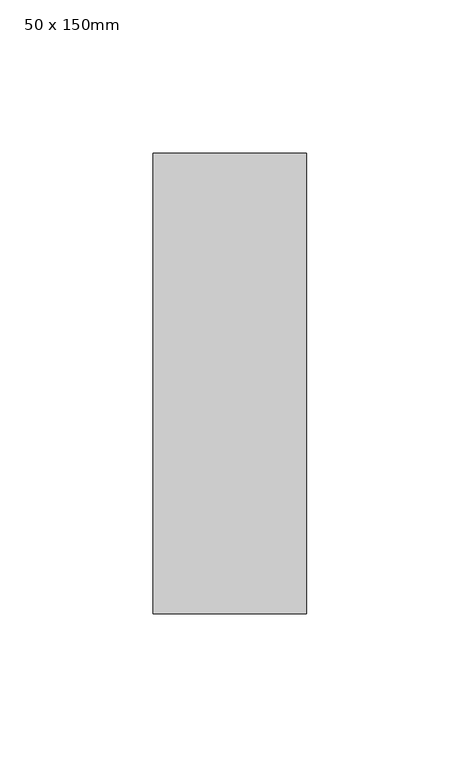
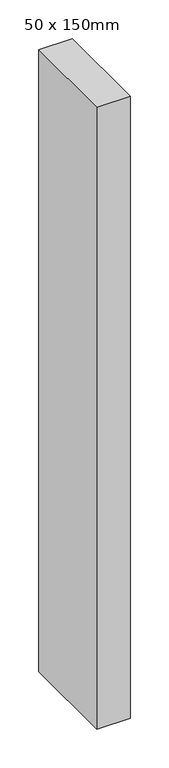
"""IFC4 building model written with IfcOpenShell, lengths in millimetres: member geometry, 矩形豎框 : 50 x 150mm."""

from ifc_helpers import new_model, si_unit, frame, origin, place, context, project, spatial, polyline, outline, extrude, source, transform, mapped, element, save


def member_50_x_150mm_038a97c0(model_context):
    return source(origin(), model_context, "Body", "SweptSolid", [
        extrude(outline(polyline([(0.0, 75.0), (0.0, -75.0), (-50.0, -75.0), (-50.0, 75.0), (0.0, 75.0)])), frame((0.0, 0.0, -981.6666667), z_axis=(0.0, 0.0, 1.0), x_axis=(1.0, 0.0, 0.0)), (0.0, 0.0, 1.0), 981.6666667),
    ])


if __name__ == "__main__":
    model = new_model("IFC4")
    model_context = context("Model", 3, world=origin())
    ifc_project = project(units=[si_unit("LENGTHUNIT", "METRE", prefix="MILLI")], contexts=[model_context])
    site = spatial("IfcSite", under=ifc_project)
    building = spatial("IfcBuilding", under=site)
    placement = place(None, origin())
    member_50_x_150mm_shape = member_50_x_150mm_038a97c0(model_context)
    element("IfcMember", 1, ObjectType="矩形豎框 : 50 x 150mm", at=placement, inside=building, context=model_context, shape_type="MappedRepresentation", body=[
        mapped(member_50_x_150mm_shape, transform((0.0, 0.0, 0.0), x_axis=(1.0, 0.0, 0.0), y_axis=(0.0, 1.0, 0.0), z_axis=(0.0, 0.0, 1.0))),
    ])
    save(model, "model.ifc")
